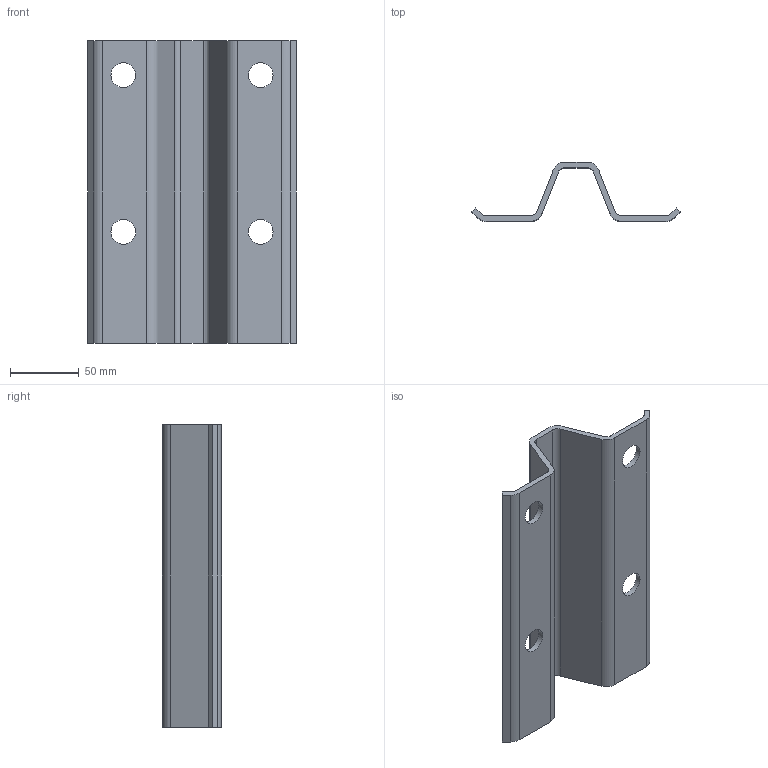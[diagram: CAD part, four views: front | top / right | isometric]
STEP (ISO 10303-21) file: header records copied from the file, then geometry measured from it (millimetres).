
FILE_DESCRIPTION(/* description */ (''),/* implementation_level */ '2;1');
FILE_NAME(/* name */ 'C265.stp',/* time_stamp */ '2023-07-03T11:02:26+02:00',/* author */ ('woriedl'),/* organization */ (''),/* preprocessor_version */ 'ST-DEVELOPER v19.2',/* originating_system */ 'AutoCAD Mechanical',/* authorisation */ '');
FILE_SCHEMA (('AUTOMOTIVE_DESIGN { 1 0 10303 214 3 1 1 }'));
Length unit declared in the file: centimetre
Products named in the file (1): Product
Bounding box: 151.72 x 43 x 220 mm (x, y, z)
Volume: 173533.8 mm3; surface area: 91046.3 mm2
Topology: 1 solids, 1 shells, 34 faces, 96 edges, 64 vertices
Faces by surface type: plane 18, cylinder 16
Full cylindrical faces by diameter (mm): 18 x4
Entity records: 1151 total; most frequent: DIRECTION 198, CARTESIAN_POINT 195, ORIENTED_EDGE 192, EDGE_CURVE 96, AXIS2_PLACEMENT_3D 67, LINE 64, VECTOR 64, VERTEX_POINT 64
